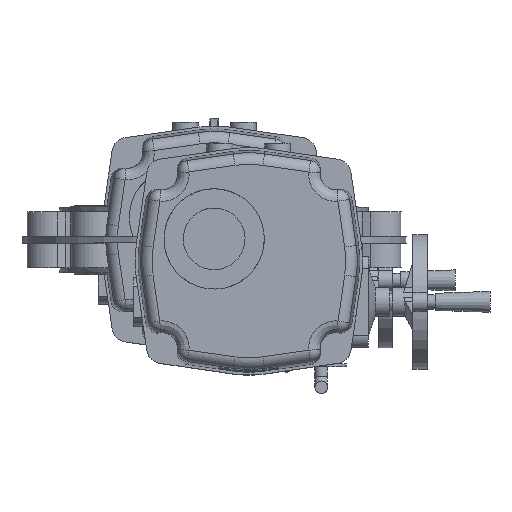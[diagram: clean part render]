
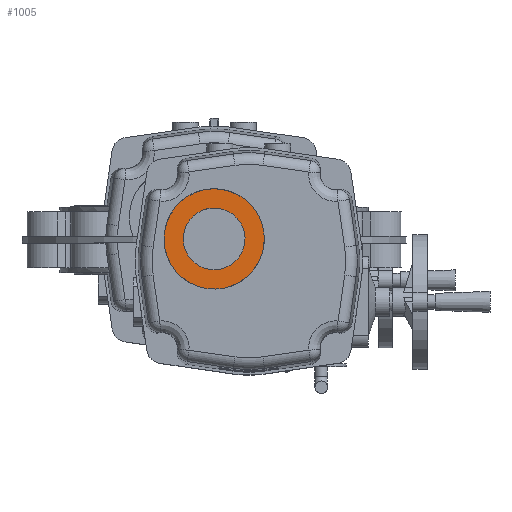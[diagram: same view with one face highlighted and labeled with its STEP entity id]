
A CAD part, top view. The second image highlights one B-rep face of the part: STEP entity #1005.
In plain terms, the highlighted planar face has unit normal (0, 0, 1).
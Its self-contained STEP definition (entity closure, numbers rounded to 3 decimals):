
#1005 = ADVANCED_FACE( '', ( #2526, #2527 ), #2528, .F. );
#2526 = FACE_BOUND( '', #5484, .T. );
#2527 = FACE_OUTER_BOUND( '', #5485, .T. );
#2528 = PLANE( '', #5486 );
#5484 = EDGE_LOOP( '', ( #12301 ) );
#5485 = EDGE_LOOP( '', ( #12302 ) );
#5486 = AXIS2_PLACEMENT_3D( '', #12303, #12304, #12305 );
#12301 = ORIENTED_EDGE( '', *, *, #17668, .T. );
#12302 = ORIENTED_EDGE( '', *, *, #17669, .F. );
#12303 = CARTESIAN_POINT( '', ( -36., 23., 165. ) );
#12304 = DIRECTION( '', ( 0., 0., -1. ) );
#12305 = DIRECTION( '', ( -1., 0., 0. ) );
#17668 = EDGE_CURVE( '', #20546, #20546, #20547, .T. );
#17669 = EDGE_CURVE( '', #20548, #20548, #20549, .T. );
#20546 = VERTEX_POINT( '', #27505 );
#20547 = CIRCLE( '', #27506, 32. );
#20548 = VERTEX_POINT( '', #27507 );
#20549 = CIRCLE( '', #27508, 52. );
#27505 = CARTESIAN_POINT( '', ( -40.599, -8.668, 165. ) );
#27506 = AXIS2_PLACEMENT_3D( '', #34665, #34666, #34667 );
#27507 = CARTESIAN_POINT( '', ( -43.473, -28.46, 165. ) );
#27508 = AXIS2_PLACEMENT_3D( '', #34668, #34669, #34670 );
#34665 = CARTESIAN_POINT( '', ( -36., 23., 165. ) );
#34666 = DIRECTION( '', ( 0., 0., -1. ) );
#34667 = DIRECTION( '', ( -0.144, -0.99, 0. ) );
#34668 = CARTESIAN_POINT( '', ( -36., 23., 165. ) );
#34669 = DIRECTION( '', ( 0., 0., -1. ) );
#34670 = DIRECTION( '', ( -0.144, -0.99, 0. ) );
